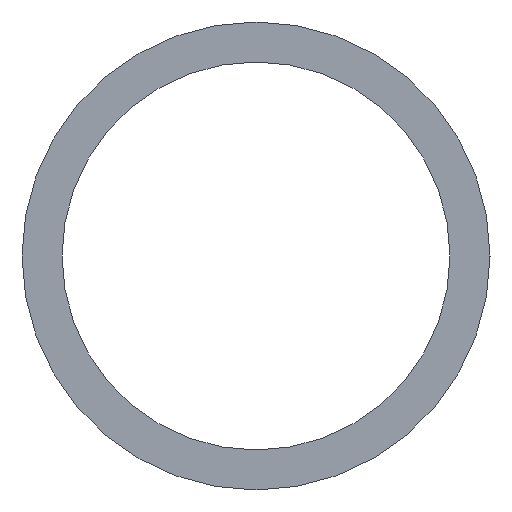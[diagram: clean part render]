
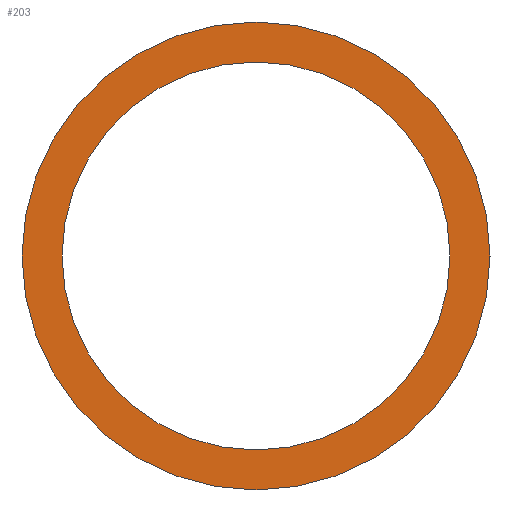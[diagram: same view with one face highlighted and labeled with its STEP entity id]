
A CAD part, left-side view. The second image highlights one B-rep face of the part: STEP entity #203.
In plain terms, the highlighted planar face has unit normal (-1, 0, 0).
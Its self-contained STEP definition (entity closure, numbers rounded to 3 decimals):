
#5 = CARTESIAN_POINT ( 'NONE',  ( 7065., 1810., 2995.85 ) ) ;
#6 = AXIS2_PLACEMENT_3D ( 'NONE', #54, #119, #180 ) ;
#15 = DIRECTION ( 'NONE',  ( 0., 0., -1. ) ) ;
#21 = DIRECTION ( 'NONE',  ( 1., 0., 0. ) ) ;
#22 = FACE_BOUND ( 'NONE', #158, .T. ) ;
#35 = AXIS2_PLACEMENT_3D ( 'NONE', #87, #89, #59 ) ;
#36 = AXIS2_PLACEMENT_3D ( 'NONE', #5, #107, #196 ) ;
#40 = ORIENTED_EDGE ( 'NONE', *, *, #136, .T. ) ;
#47 = AXIS2_PLACEMENT_3D ( 'NONE', #152, #77, #202 ) ;
#54 = CARTESIAN_POINT ( 'NONE',  ( 7065., 1810., 2995.85 ) ) ;
#59 = DIRECTION ( 'NONE',  ( 0., 0., -1. ) ) ;
#65 = VERTEX_POINT ( 'NONE', #157 ) ;
#77 = DIRECTION ( 'NONE',  ( 1., 0., 0. ) ) ;
#87 = CARTESIAN_POINT ( 'NONE',  ( 7065., 1810., 2995.85 ) ) ;
#88 = CARTESIAN_POINT ( 'NONE',  ( 7065., 1810., 3007. ) ) ;
#89 = DIRECTION ( 'NONE',  ( 1., 0., 0. ) ) ;
#97 = CIRCLE ( 'NONE', #47, 13.45 ) ;
#106 = EDGE_CURVE ( 'NONE', #65, #208, #97, .T. ) ;
#107 = DIRECTION ( 'NONE',  ( 1., 0., 0. ) ) ;
#112 = ORIENTED_EDGE ( 'NONE', *, *, #106, .F. ) ;
#119 = DIRECTION ( 'NONE',  ( 1., 0., 0. ) ) ;
#126 = EDGE_CURVE ( 'NONE', #192, #167, #133, .T. ) ;
#132 = AXIS2_PLACEMENT_3D ( 'NONE', #137, #21, #15 ) ;
#133 = CIRCLE ( 'NONE', #35, 11.15 ) ;
#136 = EDGE_CURVE ( 'NONE', #167, #192, #210, .T. ) ;
#137 = CARTESIAN_POINT ( 'NONE',  ( 7065., 1810., 2995.85 ) ) ;
#140 = CARTESIAN_POINT ( 'NONE',  ( 7065., 1810., 2984.7 ) ) ;
#149 = EDGE_CURVE ( 'NONE', #208, #65, #161, .T. ) ;
#150 = CARTESIAN_POINT ( 'NONE',  ( 7065., 1810., 3009.3 ) ) ;
#152 = CARTESIAN_POINT ( 'NONE',  ( 7065., 1810., 2995.85 ) ) ;
#156 = EDGE_LOOP ( 'NONE', ( #177, #112 ) ) ;
#157 = CARTESIAN_POINT ( 'NONE',  ( 7065., 1810., 2982.4 ) ) ;
#158 = EDGE_LOOP ( 'NONE', ( #40, #169 ) ) ;
#161 = CIRCLE ( 'NONE', #132, 13.45 ) ;
#166 = FACE_OUTER_BOUND ( 'NONE', #156, .T. ) ;
#167 = VERTEX_POINT ( 'NONE', #88 ) ;
#169 = ORIENTED_EDGE ( 'NONE', *, *, #126, .T. ) ;
#177 = ORIENTED_EDGE ( 'NONE', *, *, #149, .F. ) ;
#180 = DIRECTION ( 'NONE',  ( 0., 0., -1. ) ) ;
#192 = VERTEX_POINT ( 'NONE', #140 ) ;
#196 = DIRECTION ( 'NONE',  ( 0., 0., -1. ) ) ;
#198 = PLANE ( 'NONE',  #6 ) ;
#202 = DIRECTION ( 'NONE',  ( 0., 0., -1. ) ) ;
#203 = ADVANCED_FACE ( 'NONE', ( #166, #22 ), #198, .F. ) ;
#208 = VERTEX_POINT ( 'NONE', #150 ) ;
#210 = CIRCLE ( 'NONE', #36, 11.15 ) ;
